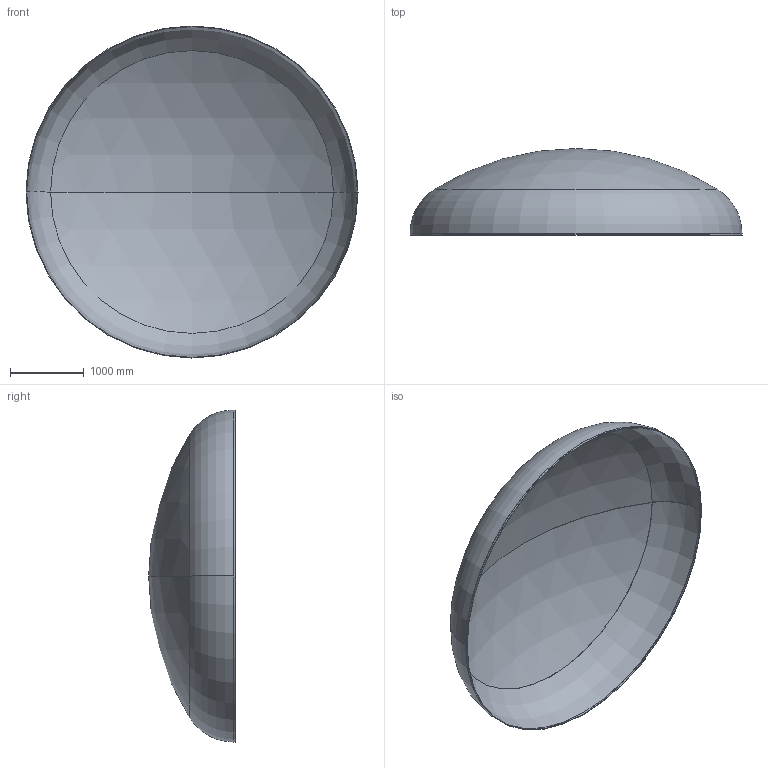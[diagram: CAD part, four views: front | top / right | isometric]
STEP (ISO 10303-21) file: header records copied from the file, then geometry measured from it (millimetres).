
FILE_DESCRIPTION (( 'STEP AP203' ), '1' );
FILE_NAME ('DIN 28013 Korbbogenform_-_Boden DIN 28013 - 4500 x 25 - I - s=8.step', '2016-07-01T22:59:50', ( '' ), ( '' ), 'SwSTEP 2.0', 'SolidWorks 2013', '' );
FILE_SCHEMA (( 'CONFIG_CONTROL_DESIGN' ));
Length unit declared in the file: millimetre
Products named in the file (1): DIN 28013 Korbbogenform_-_Boden DIN 28013 - 4500 x 25 - I - s=8
Bounding box: 4500 x 1174.18 x 4500 mm (x, y, z)
Volume: 178742084.3 mm3; surface area: 44798532.9 mm2
Topology: 1 solids, 1 shells, 13 faces, 24 edges, 14 vertices
Faces by surface type: torus 4, cylinder 4, sphere 4, plane 1
Entity records: 407 total; most frequent: DIRECTION 72, CARTESIAN_POINT 52, ORIENTED_EDGE 48, AXIS2_PLACEMENT_3D 34, EDGE_CURVE 24, CIRCLE 20, EDGE_LOOP 14, VERTEX_POINT 14
